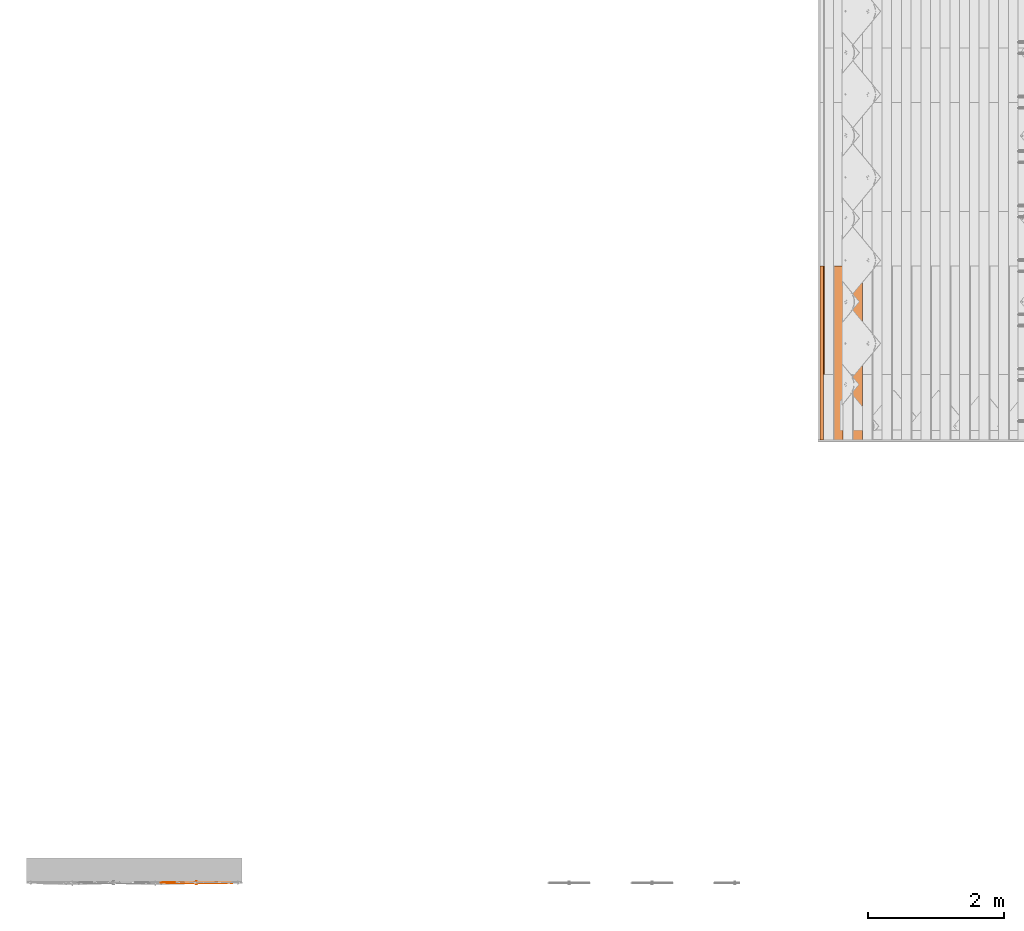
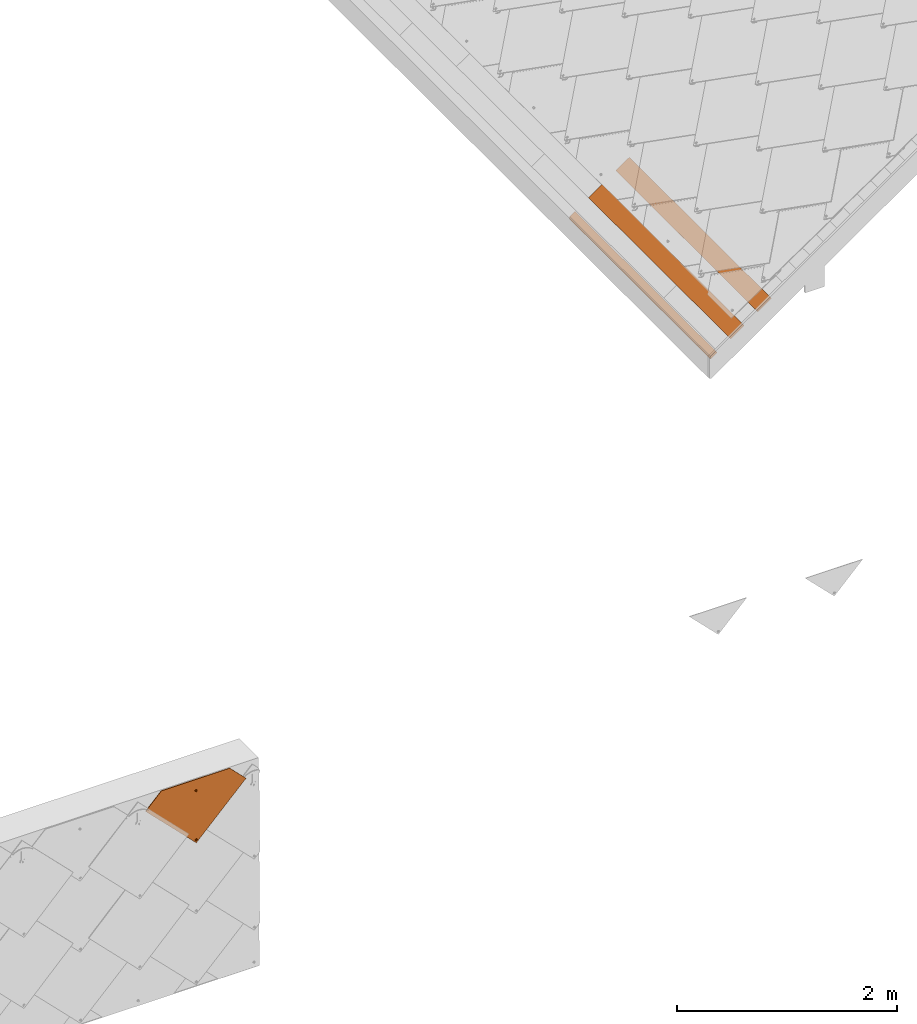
# One storey, part 8 of 133: 4 proxies, 1 element without a shape of its own.
"""IFC2X3 building model written with IfcOpenShell, lengths in millimetres."""

from ifc_helpers import new_model, entity, si_unit, converted_unit, derived_unit, direction, frame, frame_2d, origin, place, context, subcontext, project, spatial, polyline, rectangle, outline, extrude, faceted_brep, source, transform, mapped, material, material_list, type_object, type_shapes, element, aggregate, save


model = new_model("IFC2X3")

# Units and contexts
model_context = context("Model", 3, precision=0.01, world=origin(), true_north=direction((6.12303176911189e-17, 1.0)))
body_context = subcontext(model_context, "Body", "Model", "MODEL_VIEW")
ifc_project = project(units=[si_unit("LENGTHUNIT", "METRE", prefix="MILLI"), si_unit("AREAUNIT", "SQUARE_METRE"), si_unit("VOLUMEUNIT", "CUBIC_METRE"), converted_unit("PLANEANGLEUNIT", "DEGREE", entity("IfcRatioMeasure", 0.0174532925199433), si_unit("PLANEANGLEUNIT", "RADIAN"), dimensions=[0, 0, 0, 0, 0, 0, 0]), si_unit("MASSUNIT", "GRAM", prefix="KILO"), derived_unit("MASSDENSITYUNIT", [(si_unit("MASSUNIT", "GRAM", prefix="KILO"), 1), (si_unit("LENGTHUNIT", "METRE"), -3)]), si_unit("TIMEUNIT", "SECOND"), si_unit("FREQUENCYUNIT", "HERTZ"), si_unit("THERMODYNAMICTEMPERATUREUNIT", "DEGREE_CELSIUS"), derived_unit("THERMALTRANSMITTANCEUNIT", [(si_unit("MASSUNIT", "GRAM", prefix="KILO"), 1), (si_unit("THERMODYNAMICTEMPERATUREUNIT", "KELVIN"), -1), (si_unit("TIMEUNIT", "SECOND"), -3)]), derived_unit("VOLUMETRICFLOWRATEUNIT", [(si_unit("LENGTHUNIT", "METRE"), 3), (si_unit("TIMEUNIT", "SECOND"), -1)]), si_unit("ELECTRICCURRENTUNIT", "AMPERE"), si_unit("ELECTRICVOLTAGEUNIT", "VOLT"), si_unit("POWERUNIT", "WATT"), si_unit("FORCEUNIT", "NEWTON", prefix="KILO"), si_unit("ILLUMINANCEUNIT", "LUX"), si_unit("LUMINOUSFLUXUNIT", "LUMEN"), si_unit("LUMINOUSINTENSITYUNIT", "CANDELA"), derived_unit("USERDEFINED", [(si_unit("MASSUNIT", "GRAM", prefix="KILO"), -1), (si_unit("LENGTHUNIT", "METRE"), -2), (si_unit("TIMEUNIT", "SECOND"), 3), (si_unit("LUMINOUSFLUXUNIT", "LUMEN"), 1)]), derived_unit("LINEARVELOCITYUNIT", [(si_unit("LENGTHUNIT", "METRE"), 1), (si_unit("TIMEUNIT", "SECOND"), -1)]), si_unit("PRESSUREUNIT", "PASCAL"), derived_unit("USERDEFINED", [(si_unit("LENGTHUNIT", "METRE"), -2), (si_unit("MASSUNIT", "GRAM", prefix="KILO"), 1), (si_unit("TIMEUNIT", "SECOND"), -2)])], contexts=[model_context])

# Site, building, storey
site_placement = place(None, origin())
site = spatial("IfcSite", under=ifc_project, at=site_placement, Name="Default", CompositionType="ELEMENT")
building_placement = place(site_placement, origin())
building = spatial("IfcBuilding", under=site, at=building_placement, CompositionType="ELEMENT")
storey_placement = place(building_placement, origin())
storey = spatial("IfcBuildingStorey", under=building, at=storey_placement, Name="Level 1", CompositionType="ELEMENT", Elevation=0.0)

# Assembly, proxies
assembly_placement = place(storey_placement, origin())
assembly = element("IfcElementAssembly", 1, at=assembly_placement, inside=storey, Name="Structural Framing Assembly:Roof Construction Assembly", ObjectType="Structural Framing Assembly:Roof Construction Assembly", AssemblyPlace="NOTDEFINED", PredefinedType="USERDEFINED")
ifc_material_1 = material(Name="Wood - Generic - Wood For Showcase")
building_element_proxy_type_1 = type_object("IfcBuildingElementProxyType", Name="Structural Framing 15", PredefinedType="NOTDEFINED", material=ifc_material_1)
shared_shape_1 = source(origin(), body_context, "Body", "SweptSolid", [
    extrude(rectangle(XDim=24.9999999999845, YDim=174.344679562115, at=frame_2d((-1.77635683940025e-13, -4.54747350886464e-13), x_axis=(0.0, 1.0))), frame((1128.20180147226, 1437.09519417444, 2760.23940055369), z_axis=(0.0, 1.0, 0.0), x_axis=(-0.819152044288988, 0.0, -0.573576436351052)), (0.0, 0.0, 1.0), 2558.4556079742),
])
type_shapes(building_element_proxy_type_1, [shared_shape_1])
proxy_1_placement = place(assembly_placement, frame((-3284.74041550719, -8140.0, -2300.0)))
proxy_1 = element("IfcBuildingElementProxy", 2, at=proxy_1_placement, type_object=building_element_proxy_type_1, material=ifc_material_1, Name="Structural Framing 133:Structural Framing 15", ObjectType="Structural Framing 133:Structural Framing 15", context=body_context, shape_type="MappedRepresentation", body=[
    mapped(shared_shape_1, transform((0.0, 0.0, 0.0), scale=1.0)),
])
building_element_proxy_type_2 = type_object("IfcBuildingElementProxyType", Name="Structural Framing 15", PredefinedType="NOTDEFINED", material=ifc_material_1)
shared_shape_2 = source(origin(), body_context, "Body", "SweptSolid", [
    extrude(rectangle(XDim=24.9999999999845, YDim=174.344679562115, at=frame_2d((-1.77635683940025e-13, -4.54747350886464e-13), x_axis=(0.0, 1.0))), frame((1128.20180147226, 1437.09519417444, 2760.23940055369), z_axis=(0.0, 1.0, 0.0), x_axis=(-0.819152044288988, 0.0, -0.573576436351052)), (0.0, 0.0, 1.0), 2558.4556079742),
])
type_shapes(building_element_proxy_type_2, [shared_shape_2])
proxy_2_placement = place(assembly_placement, frame((-3570.37001685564, -8140.0, -2500.0)))
proxy_2 = element("IfcBuildingElementProxy", 3, at=proxy_2_placement, type_object=building_element_proxy_type_2, material=ifc_material_1, Name="Structural Framing 143:Structural Framing 15", ObjectType="Structural Framing 143:Structural Framing 15", context=body_context, shape_type="MappedRepresentation", body=[
    mapped(shared_shape_2, transform((0.0, 0.0, 0.0), scale=1.0)),
])
building_element_proxy_type_3 = type_object("IfcBuildingElementProxyType", Name="Structural Framing 15", PredefinedType="NOTDEFINED", material=ifc_material_1)
shared_shape_3 = source(origin(), body_context, "Body", "SweptSolid", [
    extrude(outline(polyline([(-38.2231230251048, -12.4999999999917), (46.9757172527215, -12.4999999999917), (29.470528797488, 12.4999999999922), (-38.2231230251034, 12.4999999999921), (-38.2231230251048, -12.4999999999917)])), frame((-2687.70096575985, -6702.90480582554, 88.3155178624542), z_axis=(0.0, 1.0, 0.0), x_axis=(-0.819152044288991, 0.0, -0.573576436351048)), (0.0, 0.0, 1.0), 2558.45560797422),
])
type_shapes(building_element_proxy_type_3, [shared_shape_3])
proxy_3_placement = place(assembly_placement, origin())
proxy_3 = element("IfcBuildingElementProxy", 4, at=proxy_3_placement, type_object=building_element_proxy_type_3, material=ifc_material_1, Name="Structural Framing 150:Structural Framing 15", ObjectType="Structural Framing 150:Structural Framing 15", context=body_context, shape_type="MappedRepresentation", body=[
    mapped(shared_shape_3, transform((0.0, 0.0, 0.0), scale=1.0)),
])
aggregate(assembly, [proxy_1, proxy_2, proxy_3])

# Proxy
ifc_material_2 = material(Name="Rubber - Sunstyle - Black")
ifc_material_3 = material(Name="Glass - Sunstyle - Tainted Terracotta")
ifc_material_list_1 = material_list([ifc_material_2, ifc_material_3])
ifc_material_list_2 = material_list([ifc_material_2, ifc_material_3])
building_element_proxy_type_4 = type_object("IfcBuildingElementProxyType", Name="Shingle Top - Terracotta", PredefinedType="NOTDEFINED", material=ifc_material_list_2)
shared_shape_4 = source(origin(), body_context, "Body", "Brep", [
    faceted_brep([(-518.396436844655, -96.9865733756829, 16.4476231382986), (-518.396436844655, -96.9614556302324, 17.9474128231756), (-526.881123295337, -88.4767691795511, 17.8053154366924), (-526.881123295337, -88.5018869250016, 16.3055257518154), (-376.996804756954, 61.3404039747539, 13.7960402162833), (-368.512118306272, 52.8557175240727, 13.9381376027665), (-376.996804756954, 61.3655217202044, 15.2958299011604), (-368.512118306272, 52.8808352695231, 15.4379272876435)], [[[0, 1, 2, 3]], [[0, 3, 4, 5]], [[3, 2, 6, 4]], [[2, 1, 7, 6]], [[1, 0, 5, 7]], [[5, 4, 6, 7]]]),
    faceted_brep([(0.166366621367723, -33.6374645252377, -4.47296585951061), (-5.6078362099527, -36.9707346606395, -4.4171418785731), (-5.60783620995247, -36.6024255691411, 17.5747274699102), (0.166366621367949, -33.2691554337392, 17.5189034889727), (-5.60783620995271, -43.6372749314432, -4.30549391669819), (-5.60783620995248, -43.2689658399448, 17.6863754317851), (0.166366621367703, -46.9705450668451, -4.24966993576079), (0.166366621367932, -46.6022359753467, 17.7421994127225), (5.94056945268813, -43.6372749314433, -4.30549391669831), (5.94056945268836, -43.2689658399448, 17.686375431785), (5.94056945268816, -36.9707346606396, -4.41714187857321), (5.94056945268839, -36.6024255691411, 17.5747274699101), (-8.43733754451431, -48.5381935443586, 17.774621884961), (0.16636662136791, -52.1014648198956, 17.8342978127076), (-12.0011084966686, -39.9356957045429, 17.6305514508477), (-8.43733754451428, -31.3331978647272, 17.4864810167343), (0.166366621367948, -27.7699265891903, 17.4268050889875), (8.77007078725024, -31.3331978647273, 17.4864810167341), (12.3338417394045, -39.935695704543, 17.6305514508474), (8.77007078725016, -48.5381935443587, 17.7746218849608), (-11.1578780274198, -37.6406185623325, 19.9433933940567), (-9.59010793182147, -39.8646808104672, 21.8708760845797), (0.166366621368, -32.5516055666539, 22.5035764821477), (0.166366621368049, -31.3111079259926, 21.9232298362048), (0.166366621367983, -29.1535570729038, 20.9138547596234), (0.166366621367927, -51.5454208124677, 19.1093557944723), (0.166366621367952, -50.6018442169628, 21.273060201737), (0.166366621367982, -47.1524685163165, 22.7481046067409), (0.166366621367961, -28.2829626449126, 18.7197675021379), (-6.15687907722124, -43.5022527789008, 22.6869725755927), (-6.15687907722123, -36.2018213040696, 22.5647085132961), (11.4906112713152, -42.1520387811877, 20.0189484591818), (10.0152467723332, -40.9390872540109, 21.7920079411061), (6.48961231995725, -36.2018213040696, 22.564708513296), (6.48961231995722, -43.5022527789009, 22.6869725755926), (-6.15687907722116, -43.3682243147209, 30.68986075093), (0.166366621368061, -47.0184400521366, 30.7509927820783), (0.166366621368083, -39.7180085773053, 30.6287287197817), (-6.15687907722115, -36.0677928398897, 30.5675966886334), (6.48961231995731, -43.368224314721, 30.6898607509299), (6.48961231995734, -36.0677928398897, 30.5675966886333), (0.166366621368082, -32.417577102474, 30.5064646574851), (0.166366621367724, -40.3040047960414, -4.36131789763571)], [[[0, 1, 2, 3]], [[1, 4, 5, 2]], [[4, 6, 7, 5]], [[6, 8, 9, 7]], [[8, 10, 11, 9]], [[10, 0, 3, 11]], [[12, 7, 13]], [[7, 12, 5]], [[14, 5, 12]], [[5, 14, 2]], [[15, 2, 14]], [[3, 2, 15]], [[15, 16, 3]], [[16, 17, 3]], [[11, 3, 17]], [[11, 17, 18]], [[9, 11, 18]], [[18, 19, 9]], [[7, 9, 19]], [[19, 13, 7]], [[20, 14, 12]], [[21, 22, 23, 24]], [[24, 20, 21]], [[25, 20, 12]], [[26, 27, 21]], [[15, 14, 20]], [[12, 13, 25]], [[20, 28, 15]], [[28, 20, 24]], [[21, 27, 29]], [[21, 29, 30]], [[26, 21, 20]], [[20, 25, 26]], [[15, 28, 16]], [[21, 30, 22]], [[31, 18, 17]], [[28, 31, 17]], [[32, 27, 26]], [[26, 31, 32]], [[26, 25, 31]], [[25, 19, 31]], [[17, 16, 28]], [[31, 19, 18]], [[24, 31, 28]], [[33, 34, 32]], [[23, 22, 33]], [[24, 32, 31]], [[27, 32, 34]], [[32, 23, 33]], [[19, 25, 13]], [[32, 24, 23]], [[35, 36, 37]], [[37, 38, 35]], [[36, 39, 37]], [[40, 37, 39]], [[37, 40, 41]], [[37, 41, 38]], [[42, 6, 4]], [[4, 1, 42]], [[1, 0, 42]], [[42, 8, 6]], [[0, 10, 42]], [[8, 42, 10]], [[22, 30, 38, 41]], [[30, 29, 35, 38]], [[29, 27, 36, 35]], [[27, 34, 39, 36]], [[34, 33, 40, 39]], [[33, 22, 41, 40]]]),
    faceted_brep([(0.0, -573.927138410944, 4.00636906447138), (-5.77420283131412, -577.260408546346, 4.0621930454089), (-5.77420283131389, -576.892099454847, 26.0540623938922), (0.0, -573.558829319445, 25.9982384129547), (-5.77420283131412, -583.926948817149, 4.1738410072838), (-5.7742028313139, -583.558639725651, 26.1657103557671), (0.0, -587.260218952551, 4.2296649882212), (0.0, -586.891909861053, 26.2215343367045), (5.77420283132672, -583.926948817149, 4.17384100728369), (5.77420283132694, -583.558639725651, 26.165710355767), (5.77420283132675, -577.260408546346, 4.06219304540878), (5.77420283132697, -576.892099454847, 26.0540623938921), (-8.60370416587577, -588.827867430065, 26.253956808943), (0.0, -592.391138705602, 26.3136327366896), (-12.1674751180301, -580.225369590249, 26.1098863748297), (-8.60370416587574, -571.622871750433, 25.9658159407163), (0.0, -568.059600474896, 25.9061400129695), (8.60370416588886, -571.622871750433, 25.9658159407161), (12.1674751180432, -580.225369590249, 26.1098863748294), (8.60370416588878, -588.827867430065, 26.2539568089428), (-11.3242446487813, -577.930292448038, 28.4227283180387), (-9.75647455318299, -580.154354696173, 30.3502110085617), (0.0, -572.84127945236, 30.9829114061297), (0.0, -571.600781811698, 30.4025647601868), (0.0, -569.44323095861, 29.3931896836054), (0.0, -591.835094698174, 27.5886907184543), (0.0, -590.891518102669, 29.752395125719), (0.0, -587.442142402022, 31.227439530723), (0.0, -568.572636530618, 27.1991024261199), (-6.32324569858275, -583.791926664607, 31.1663074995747), (-6.32324569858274, -576.491495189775, 31.0440434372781), (11.3242446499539, -582.441712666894, 28.4982833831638), (9.84888015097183, -581.228761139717, 30.2713428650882), (6.32324569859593, -576.491495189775, 31.044043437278), (6.32324569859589, -583.791926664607, 31.1663074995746), (-6.32324569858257, -583.657898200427, 39.169195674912), (0.0, -587.308113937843, 39.2303277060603), (0.0, -580.007682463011, 39.1080636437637), (-6.32324569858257, -576.357466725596, 39.0469316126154), (6.32324569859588, -583.657898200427, 39.1691956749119), (6.32324569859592, -576.357466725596, 39.0469316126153), (0.0, -572.70725098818, 38.9857995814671), (0.0, -580.593678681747, 4.11801702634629)], [[[0, 1, 2, 3]], [[1, 4, 5, 2]], [[4, 6, 7, 5]], [[6, 8, 9, 7]], [[8, 10, 11, 9]], [[10, 0, 3, 11]], [[12, 7, 13]], [[7, 12, 5]], [[14, 5, 12]], [[5, 14, 2]], [[15, 2, 14]], [[3, 2, 15]], [[15, 16, 3]], [[16, 17, 3]], [[11, 3, 17]], [[11, 17, 18]], [[9, 11, 18]], [[18, 19, 9]], [[7, 9, 19]], [[19, 13, 7]], [[20, 14, 12]], [[21, 22, 23, 24]], [[24, 20, 21]], [[25, 20, 12]], [[26, 27, 21]], [[15, 14, 20]], [[12, 13, 25]], [[20, 28, 15]], [[28, 20, 24]], [[21, 27, 29]], [[21, 29, 30]], [[26, 21, 20]], [[20, 25, 26]], [[15, 28, 16]], [[21, 30, 22]], [[31, 18, 17]], [[28, 31, 17]], [[32, 27, 26]], [[26, 31, 32]], [[26, 25, 31]], [[25, 19, 31]], [[17, 16, 28]], [[31, 19, 18]], [[24, 31, 28]], [[33, 34, 32]], [[23, 22, 33]], [[24, 32, 31]], [[27, 32, 34]], [[32, 23, 33]], [[19, 25, 13]], [[32, 24, 23]], [[35, 36, 37]], [[37, 38, 35]], [[36, 39, 37]], [[40, 37, 39]], [[37, 40, 41]], [[37, 41, 38]], [[42, 6, 4]], [[4, 1, 42]], [[1, 0, 42]], [[42, 8, 6]], [[0, 10, 42]], [[8, 42, 10]], [[22, 30, 38, 41]], [[30, 29, 35, 38]], [[29, 27, 36, 35]], [[27, 34, 39, 36]], [[34, 33, 40, 39]], [[33, 22, 41, 40]]]),
    faceted_brep([(518.482751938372, -96.8754983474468, 17.9260478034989), (526.967438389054, -88.3908118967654, 17.7839504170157), (526.967438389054, -88.3656941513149, 19.2837401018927), (518.482751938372, -96.8503806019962, 19.4258374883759), (349.749400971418, 71.8105397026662, 15.1009763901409), (358.234087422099, 80.2952261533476, 14.9588790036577), (358.234087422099, 80.3203438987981, 16.4586686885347), (349.749400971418, 71.8356574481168, 16.6007660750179)], [[[0, 1, 2, 3]], [[1, 0, 4, 5]], [[2, 1, 5, 6]], [[3, 2, 6, 7]], [[0, 3, 7, 4]], [[4, 7, 6, 5]]]),
    faceted_brep([(358.234087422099, 80.2952261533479, 14.9588790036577), (6.94661128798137, -35.8890860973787, 16.9046771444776), (7.74581466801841, -37.8182632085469, 16.9369860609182), (5.67526230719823, -34.2324641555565, 16.8769328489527), (8.01840805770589, -39.8885252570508, 16.9716577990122), (7.74581466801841, -41.9587873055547, 17.0063295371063), (6.94661128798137, -43.8879644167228, 17.0386384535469), (526.967438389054, -88.3908118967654, 17.7839504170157), (4.01840805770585, -32.9612934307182, 16.855643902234), (2.08896041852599, -32.1622021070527, 16.8422611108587), (0.0184080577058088, -31.8896469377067, 16.8376964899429), (-358.233442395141, 80.2952261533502, 14.9588790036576), (-2.05214430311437, -32.1622021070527, 16.8422611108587), (-3.98159194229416, -32.9612934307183, 16.855643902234), (-5.63844619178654, -34.2324641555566, 16.8769328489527), (-6.90979517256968, -35.8890860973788, 16.9046771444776), (-7.70899855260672, -37.8182632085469, 16.9369860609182), (-7.98159194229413, -39.8885252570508, 16.9716577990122), (-7.70899855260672, -41.9587873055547, 17.0063295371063), (-6.90979517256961, -43.8879644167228, 17.0386384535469), (-526.966793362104, -88.390811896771, 17.7839504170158), (-5.63844619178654, -45.544586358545, 17.0663827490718), (-5.6568542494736, -574.226981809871, 25.9204974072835), (-6.92820323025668, -575.883603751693, 25.9482417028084), (-7.72740661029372, -577.812780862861, 25.980550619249), (-8.0, -579.883042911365, 26.015222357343), (-7.72740661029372, -581.953304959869, 26.049894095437), (0.000322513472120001, -615.210165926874, 26.6068637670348), (7.72740661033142, -581.953304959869, 26.049894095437), (6.92820323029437, -583.882482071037, 26.0822030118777), (5.65685424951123, -585.53910401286, 26.1099473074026), (4.0, -586.810274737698, 26.1312362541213), (2.070552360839, -587.609366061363, 26.1446190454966), (0.0, -587.881921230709, 26.1491836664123), (-2.0705523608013, -587.609366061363, 26.1446190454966), (-4.0, -586.810274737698, 26.1312362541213), (-5.65685424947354, -585.53910401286, 26.1099473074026), (-6.92820323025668, -583.882482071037, 26.0822030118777), (-4.0, -572.955811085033, 25.8992084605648), (-3.98159194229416, -46.8157570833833, 17.0876716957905), (-2.07055236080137, -572.156719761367, 25.8858256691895), (-2.05214430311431, -47.614848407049, 17.1010544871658), (0.0, -571.884164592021, 25.8812610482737), (0.0184080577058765, -47.8874035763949, 17.1056191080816), (2.07055236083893, -572.156719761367, 25.8858256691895), (2.08896041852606, -47.6148484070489, 17.1010544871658), (4.0, -572.955811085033, 25.8992084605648), (4.01840805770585, -46.8157570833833, 17.0876716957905), (5.65685424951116, -574.226981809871, 25.9204974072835), (5.67526230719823, -45.544586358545, 17.0663827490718), (6.92820323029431, -575.883603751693, 25.9482417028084), (7.72740661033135, -577.812780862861, 25.980550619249), (8.0, -579.883042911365, 26.015222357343), (-358.233442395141, 80.1947551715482, 8.9597202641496), (-6.90979517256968, -35.9895570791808, 10.9055184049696), (-7.70899855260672, -37.9187341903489, 10.9378273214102), (-5.63844619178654, -34.3329351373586, 10.8777741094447), (-7.98159194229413, -39.9889962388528, 10.9724990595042), (-7.70899855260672, -42.0592582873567, 11.0071707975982), (-6.90979517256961, -43.9884353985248, 11.0394797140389), (-526.966793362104, -88.4912828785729, 11.7847916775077), (-3.98159194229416, -33.0617644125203, 10.856485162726), (-2.05214430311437, -32.2626730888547, 10.8431023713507), (0.0184080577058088, -31.9901179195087, 10.8385377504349), (358.234087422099, 80.1947551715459, 8.95972026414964), (2.08896041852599, -32.2626730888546, 10.8431023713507), (4.01840805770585, -33.0617644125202, 10.856485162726), (5.67526230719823, -34.3329351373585, 10.8777741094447), (6.94661128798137, -35.9895570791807, 10.9055184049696), (7.74581466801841, -37.9187341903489, 10.9378273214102), (8.01840805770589, -39.9889962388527, 10.9724990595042), (7.74581466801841, -42.0592582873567, 11.0071707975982), (6.94661128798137, -43.9884353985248, 11.0394797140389), (526.967438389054, -88.4912828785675, 11.7847916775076), (5.67526230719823, -45.645057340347, 11.0672240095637), (5.65685424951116, -574.327452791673, 19.9213386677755), (6.92820323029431, -575.984074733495, 19.9490829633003), (7.72740661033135, -577.913251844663, 19.981391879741), (8.0, -579.983513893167, 20.016063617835), (7.72740661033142, -582.053775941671, 20.050735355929), (0.000322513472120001, -615.310636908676, 20.6077050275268), (-7.72740661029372, -582.053775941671, 20.050735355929), (-6.92820323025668, -583.982953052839, 20.0830442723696), (-5.65685424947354, -585.639574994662, 20.1107885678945), (-4.0, -586.9107457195, 20.1320775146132), (-2.0705523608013, -587.709837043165, 20.1454603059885), (0.0, -587.982392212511, 20.1500249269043), (2.070552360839, -587.709837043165, 20.1454603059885), (4.0, -586.9107457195, 20.1320775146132), (5.65685424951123, -585.639574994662, 20.1107885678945), (6.92820323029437, -583.982953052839, 20.0830442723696), (4.01840805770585, -46.9162280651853, 11.0885129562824), (4.0, -573.056282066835, 19.9000497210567), (2.08896041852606, -47.7153193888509, 11.1018957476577), (2.07055236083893, -572.257190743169, 19.8866669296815), (0.0184080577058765, -47.9878745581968, 11.1064603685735), (0.0, -571.984635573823, 19.8821023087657), (-2.05214430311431, -47.7153193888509, 11.1018957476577), (-2.07055236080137, -572.257190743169, 19.8866669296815), (-3.98159194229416, -46.9162280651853, 11.0885129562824), (-4.0, -573.056282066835, 19.9000497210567), (-5.63844619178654, -45.645057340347, 11.0672240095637), (-5.6568542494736, -574.327452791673, 19.9213386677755), (-6.92820323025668, -575.984074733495, 19.9490829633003), (-7.72740661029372, -577.913251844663, 19.981391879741), (-8.0, -579.983513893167, 20.016063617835)], [[[0, 1, 2]], [[1, 0, 3]], [[0, 2, 4]], [[4, 5, 0]], [[5, 6, 0]], [[7, 0, 6]], [[8, 3, 0]], [[9, 8, 0]], [[10, 9, 0]], [[0, 11, 10]], [[12, 10, 11]], [[13, 12, 11]], [[14, 13, 11]], [[11, 15, 14]], [[15, 11, 16]], [[16, 11, 17]], [[11, 18, 17]], [[18, 11, 19]], [[11, 20, 19]], [[19, 20, 21]], [[20, 22, 21]], [[23, 22, 20]], [[24, 23, 20]], [[24, 20, 25]], [[26, 25, 20]], [[27, 26, 20]], [[7, 28, 27]], [[29, 27, 28]], [[27, 29, 30]], [[30, 31, 27]], [[31, 32, 27]], [[27, 32, 33]], [[27, 33, 34]], [[34, 35, 27]], [[27, 35, 36]], [[36, 37, 27]], [[37, 26, 27]], [[38, 21, 22]], [[38, 39, 21]], [[38, 40, 39]], [[40, 41, 39]], [[40, 42, 41]], [[41, 42, 43]], [[44, 43, 42]], [[44, 45, 43]], [[45, 44, 46]], [[46, 47, 45]], [[46, 48, 47]], [[48, 49, 47]], [[50, 7, 48]], [[48, 7, 49]], [[7, 50, 51]], [[7, 51, 52]], [[52, 28, 7]], [[7, 6, 49]], [[53, 54, 55]], [[54, 53, 56]], [[53, 55, 57]], [[58, 53, 57]], [[59, 53, 58]], [[60, 53, 59]], [[61, 56, 53]], [[62, 61, 53]], [[53, 63, 62]], [[63, 53, 64]], [[65, 63, 64]], [[66, 65, 64]], [[64, 67, 66]], [[67, 64, 68]], [[68, 64, 69]], [[70, 69, 64]], [[71, 70, 64]], [[72, 71, 64]], [[72, 64, 73]], [[72, 73, 74]], [[74, 73, 75]], [[73, 76, 75]], [[76, 73, 77]], [[77, 73, 78]], [[79, 78, 73]], [[79, 73, 80]], [[60, 81, 80]], [[80, 81, 82]], [[80, 82, 83]], [[83, 84, 80]], [[84, 85, 80]], [[85, 86, 80]], [[80, 86, 87]], [[80, 87, 88]], [[80, 88, 89]], [[79, 80, 90]], [[80, 89, 90]], [[75, 91, 74]], [[75, 92, 91]], [[92, 93, 91]], [[93, 92, 94]], [[93, 94, 95]], [[96, 95, 94]], [[97, 95, 96]], [[96, 98, 97]], [[98, 99, 97]], [[98, 100, 99]], [[100, 101, 99]], [[100, 102, 101]], [[60, 101, 102]], [[103, 60, 102]], [[103, 104, 60]], [[104, 105, 60]], [[105, 81, 60]], [[59, 101, 60]], [[27, 20, 60, 80]], [[7, 27, 80, 73]], [[0, 7, 73, 64]], [[25, 105, 104, 24]], [[24, 104, 103, 23]], [[38, 22, 102, 100]], [[102, 22, 23, 103]], [[40, 38, 100, 98]], [[40, 98, 96, 42]], [[42, 96, 94, 44]], [[44, 94, 92, 46]], [[50, 48, 75, 76]], [[75, 48, 46, 92]], [[51, 50, 76, 77]], [[51, 77, 78, 52]], [[52, 78, 79, 28]], [[28, 79, 90, 29]], [[31, 30, 89, 88]], [[29, 90, 89, 30]], [[87, 32, 31, 88]], [[32, 87, 86, 33]], [[34, 33, 86, 85]], [[34, 85, 84, 35]], [[37, 36, 83, 82]], [[35, 84, 83, 36]], [[37, 82, 81, 26]], [[26, 81, 105, 25]], [[17, 57, 55, 16]], [[16, 55, 54, 15]], [[13, 14, 56, 61]], [[56, 14, 15, 54]], [[12, 13, 61, 62]], [[12, 62, 63, 10]], [[10, 63, 65, 9]], [[9, 65, 66, 8]], [[1, 3, 67, 68]], [[67, 3, 8, 66]], [[2, 1, 68, 69]], [[2, 69, 70, 4]], [[4, 70, 71, 5]], [[5, 71, 72, 6]], [[47, 49, 74, 91]], [[74, 49, 6, 72]], [[45, 47, 91, 93]], [[45, 93, 95, 43]], [[43, 95, 97, 41]], [[41, 97, 99, 39]], [[19, 21, 101, 59]], [[101, 21, 39, 99]], [[18, 19, 59, 58]], [[18, 58, 57, 17]], [[11, 0, 64, 53]], [[20, 11, 53, 60]]]),
])
type_shapes(building_element_proxy_type_4, [shared_shape_4])
proxy_4_placement = place(storey_placement, frame((-11875.0903240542, -13191.873651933, 2456.80158218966), z_axis=(0.0, -1.0, 0.0), x_axis=(1.0, 0.0, 0.0)))
element("IfcBuildingElementProxy", 5, at=proxy_4_placement, inside=storey, type_object=building_element_proxy_type_4, material=ifc_material_list_1, Name="Roofing_Panels_SunStyle_Tile_Shingle-Top:Shingle Top - Terracotta", ObjectType="Roofing_Panels_SunStyle_Tile_Shingle-Top:Shingle Top - Terracotta", context=body_context, shape_type="MappedRepresentation", body=[
    mapped(shared_shape_4, transform((0.0, 0.0, 0.0), scale=1.0)),
])

save(model, "model.ifc")
